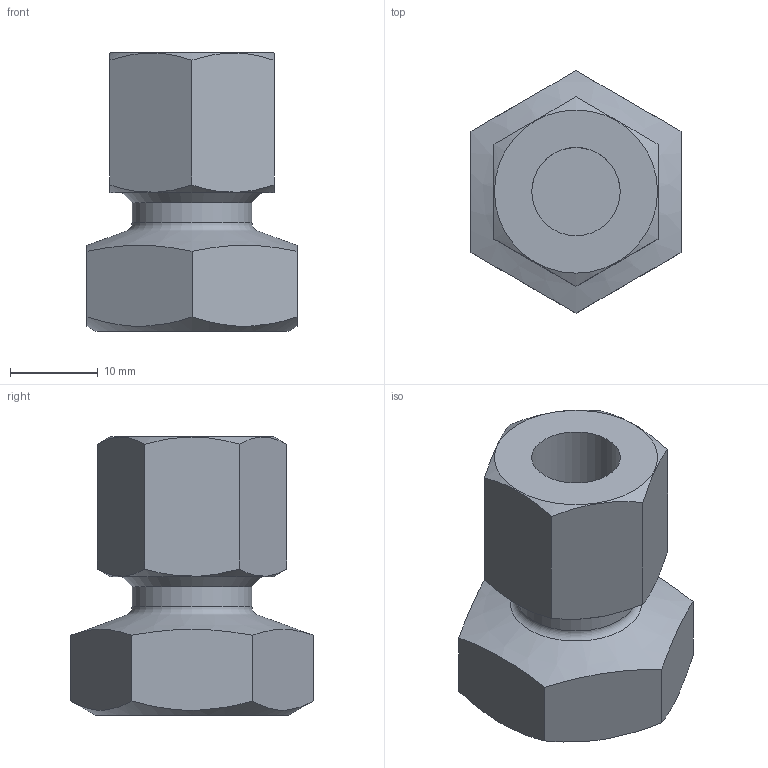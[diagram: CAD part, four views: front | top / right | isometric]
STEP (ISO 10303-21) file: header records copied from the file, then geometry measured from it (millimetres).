
FILE_DESCRIPTION(/* description */ (''),/* implementation_level */ '2;1');
FILE_NAME(/* name */ 'P:\AS\NH-10G-7_16\NH-10G-7_16.stp',/* time_stamp */ '2017-12-14T09:14:48+01:00',/* author */ ('neufeld'),/* organization */ (''),/* preprocessor_version */ 'ST-DEVELOPER v16.1',/* originating_system */ 'Autodesk Inventor 2016',/* authorisation */ '');
FILE_SCHEMA (('AUTOMOTIVE_DESIGN { 1 0 10303 214 3 1 1 }'));
Length unit declared in the file: millimetre
Products named in the file (1): NH-10G-7_16_AG-Kunde
Bounding box: 24 x 27.71 x 31.85 mm (x, y, z)
Volume: 8932.4 mm3; surface area: 3990.5 mm2
Topology: 1 solids, 1 shells, 27 faces, 60 edges, 38 vertices
Faces by surface type: plane 17, cone 6, cylinder 3, torus 1
Full cylindrical faces by diameter (mm): 9.738 x1, 10.1 x1, 13.7 x1
Entity records: 711 total; most frequent: CARTESIAN_POINT 160, ORIENTED_EDGE 96, DIRECTION 92, EDGE_CURVE 48, EDGE_LOOP 40, AXIS2_PLACEMENT_3D 40, VERTEX_POINT 36, STYLED_ITEM 28
